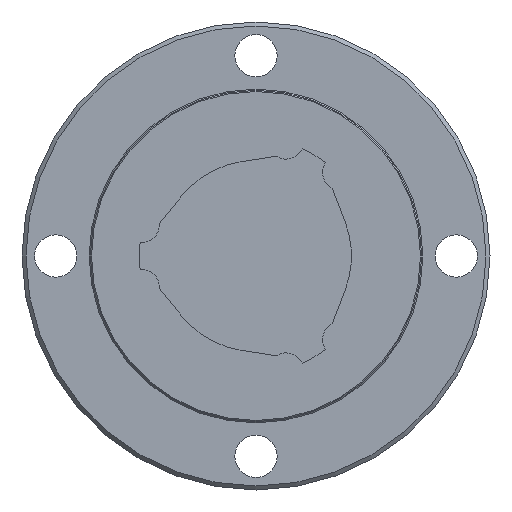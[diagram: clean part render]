
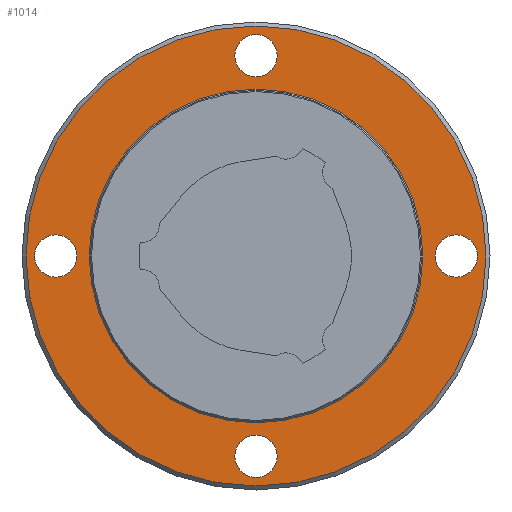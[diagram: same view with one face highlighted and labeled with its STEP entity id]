
A CAD part, left-side view. The second image highlights one B-rep face of the part: STEP entity #1014.
In plain terms, the highlighted planar face has unit normal (-1, 0, 0).
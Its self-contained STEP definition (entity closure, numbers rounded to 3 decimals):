
#49=PLANE('',#1146);
#319=ORIENTED_EDGE('',*,*,#534,.F.);
#320=ORIENTED_EDGE('',*,*,#535,.T.);
#321=ORIENTED_EDGE('',*,*,#536,.T.);
#322=ORIENTED_EDGE('',*,*,#537,.T.);
#323=ORIENTED_EDGE('',*,*,#538,.T.);
#324=ORIENTED_EDGE('',*,*,#533,.T.);
#533=EDGE_CURVE('',#651,#651,#730,.T.);
#534=EDGE_CURVE('',#652,#652,#731,.T.);
#535=EDGE_CURVE('',#653,#653,#732,.T.);
#536=EDGE_CURVE('',#654,#654,#733,.T.);
#537=EDGE_CURVE('',#655,#655,#734,.T.);
#538=EDGE_CURVE('',#656,#656,#735,.T.);
#651=VERTEX_POINT('',#1766);
#652=VERTEX_POINT('',#1769);
#653=VERTEX_POINT('',#1771);
#654=VERTEX_POINT('',#1773);
#655=VERTEX_POINT('',#1775);
#656=VERTEX_POINT('',#1777);
#730=CIRCLE('',#1145,70.8);
#731=CIRCLE('',#1147,97.6);
#732=CIRCLE('',#1148,9.);
#733=CIRCLE('',#1149,9.);
#734=CIRCLE('',#1150,9.);
#735=CIRCLE('',#1151,9.);
#795=EDGE_LOOP('',(#319));
#796=EDGE_LOOP('',(#320));
#797=EDGE_LOOP('',(#321));
#798=EDGE_LOOP('',(#322));
#799=EDGE_LOOP('',(#323));
#800=EDGE_LOOP('',(#324));
#891=FACE_BOUND('',#795,.T.);
#892=FACE_BOUND('',#796,.T.);
#893=FACE_BOUND('',#797,.T.);
#894=FACE_BOUND('',#798,.T.);
#895=FACE_BOUND('',#799,.T.);
#896=FACE_BOUND('',#800,.T.);
#1014=ADVANCED_FACE('',(#891,#892,#893,#894,#895,#896),#49,.F.);
#1145=AXIS2_PLACEMENT_3D('',#1765,#1388,#1389);
#1146=AXIS2_PLACEMENT_3D('',#1767,#1390,#1391);
#1147=AXIS2_PLACEMENT_3D('',#1768,#1392,#1393);
#1148=AXIS2_PLACEMENT_3D('',#1770,#1394,#1395);
#1149=AXIS2_PLACEMENT_3D('',#1772,#1396,#1397);
#1150=AXIS2_PLACEMENT_3D('',#1774,#1398,#1399);
#1151=AXIS2_PLACEMENT_3D('',#1776,#1400,#1401);
#1388=DIRECTION('',(1.,0.,0.));
#1389=DIRECTION('',(0.,1.,0.));
#1390=DIRECTION('',(1.,0.,0.));
#1391=DIRECTION('',(0.,1.,0.));
#1392=DIRECTION('',(1.,0.,0.));
#1393=DIRECTION('',(0.,1.,0.));
#1394=DIRECTION('',(1.,0.,0.));
#1395=DIRECTION('',(0.,0.,-1.));
#1396=DIRECTION('',(1.,0.,0.));
#1397=DIRECTION('',(0.,0.,-1.));
#1398=DIRECTION('',(1.,0.,0.));
#1399=DIRECTION('',(0.,0.,-1.));
#1400=DIRECTION('',(1.,0.,0.));
#1401=DIRECTION('',(0.,0.,-1.));
#1765=CARTESIAN_POINT('',(70.5,0.,0.));
#1766=CARTESIAN_POINT('',(70.5,70.8,0.));
#1767=CARTESIAN_POINT('',(70.5,70.8,0.));
#1768=CARTESIAN_POINT('',(70.5,0.,0.));
#1769=CARTESIAN_POINT('',(70.5,97.6,0.));
#1770=CARTESIAN_POINT('',(70.5,85.,0.));
#1771=CARTESIAN_POINT('',(70.5,85.,-9.));
#1772=CARTESIAN_POINT('',(70.5,0.,-85.));
#1773=CARTESIAN_POINT('',(70.5,0.,-94.));
#1774=CARTESIAN_POINT('',(70.5,0.,85.));
#1775=CARTESIAN_POINT('',(70.5,0.,76.));
#1776=CARTESIAN_POINT('',(70.5,-85.,0.));
#1777=CARTESIAN_POINT('',(70.5,-85.,-9.));
